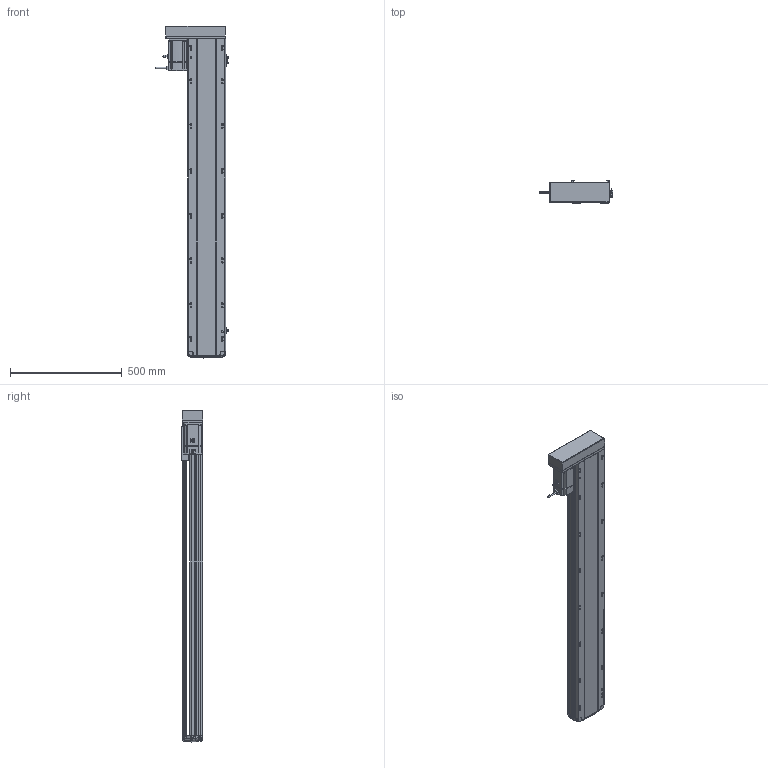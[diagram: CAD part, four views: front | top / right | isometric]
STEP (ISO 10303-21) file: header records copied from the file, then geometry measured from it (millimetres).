
FILE_DESCRIPTION (( 'STEP AP214' ), '1' );
FILE_NAME ('RTH17-XX-1200-R-M75-C4.STEP', '2025-10-24T10:20:00', ( '' ), ( '' ), 'SwSTEP 2.0', 'SolidWorks 2018', '' );
FILE_SCHEMA (( 'AUTOMOTIVE_DESIGN' ));
Length unit declared in the file: millimetre
Products named in the file (10): N_RTH17-M-011底座^RTH17-XX-XX-R-M75-C4（方程式）; N_RTH-L-012 感应片(外置)^RTH17-XX-XX-R-M75-C4（方程式）; N_RTH17-L-008-P75电机安装板左转折^RTH17-XX-XX-R-M75-C4（方程式）; RTH17-XX-1200-R-M75-C4; N_RTH17-GY-001P^RTH17-XX-XX-R-M75-C4（方程式）; N_OMRON EE-SX672 換覜ん^RTH17-XX-XX-R-M75-C4ㄗ源最宒ㄘ; N_RTH17-E-004丝杆螺母连接座^RTH17-XX-XX-R-M75-C4（方程式）; N_RTH17-M-007上盖^RTH17-XX-XX-R-M75-C4（方程式）; N_M75^RTH17-XX-XX-R-M75-C4（方程式）; N_RTH17-L-018盖子^RTH17-XX-XX-R-M75-C4（方程式）
Assembly tree (11 placements, depth 2):
  RTH17-XX-1200-R-M75-C4
    N_RTH17-M-011底座^RTH17-XX-XX-R-M75-C4（方程式）
    N_RTH17-M-007上盖^RTH17-XX-XX-R-M75-C4（方程式）
    N_M75^RTH17-XX-XX-R-M75-C4（方程式）
    N_OMRON EE-SX672 換覜ん^RTH17-XX-XX-R-M75-C4ㄗ源最宒ㄘ  x3
    N_RTH-L-012 感应片(外置)^RTH17-XX-XX-R-M75-C4（方程式）
    N_RTH17-L-008-P75电机安装板左转折^RTH17-XX-XX-R-M75-C4（方程式）
    N_RTH17-L-018盖子^RTH17-XX-XX-R-M75-C4（方程式）
    N_RTH17-E-004丝杆螺母连接座^RTH17-XX-XX-R-M75-C4（方程式）
    N_RTH17-GY-001P^RTH17-XX-XX-R-M75-C4（方程式）
Bounding box: 326.2 x 97 x 1482.99 mm (x, y, z)
Volume: 12644788.5 mm3; surface area: 1582405.5 mm2
Topology: 13 solids, 15 shells, 1789 faces, 4943 edges, 3202 vertices
Faces by surface type: plane 837, cylinder 538, bspline 377, cone 28, torus 9
Entity records: 52717 total; most frequent: CARTESIAN_POINT 21003, ORIENTED_EDGE 6910, DIRECTION 5743, EDGE_CURVE 3459, VERTEX_POINT 2238, AXIS2_PLACEMENT_3D 1945, LINE 1853, VECTOR 1853
